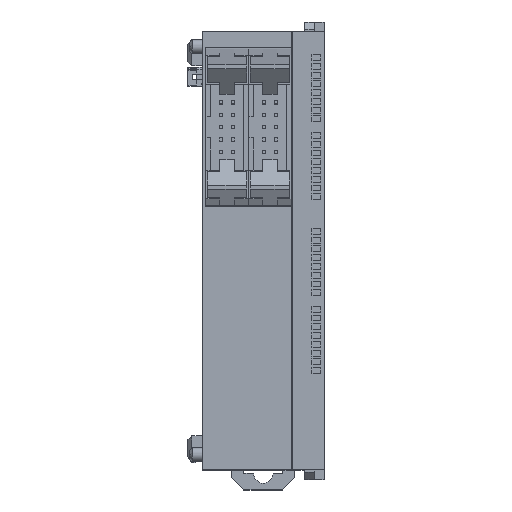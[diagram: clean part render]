
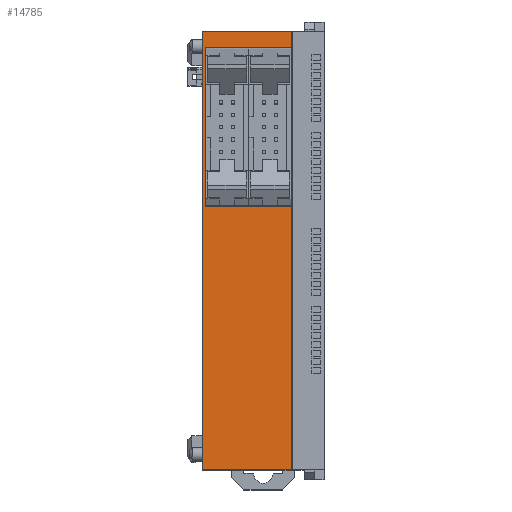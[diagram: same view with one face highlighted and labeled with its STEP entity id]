
A CAD part, top view. The second image highlights one B-rep face of the part: STEP entity #14785.
In plain terms, the highlighted planar face has unit normal (0, 0, 1).
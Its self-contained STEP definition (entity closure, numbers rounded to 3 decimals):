
#187 = DIRECTION ( 'NONE',  ( 0., -1., 0. ) ) ;
#188 = VECTOR ( 'NONE', #187, 1000. ) ;
#189 = CARTESIAN_POINT ( 'NONE',  ( -12.5, 45., 60. ) ) ;
#190 = LINE ( 'NONE', #189, #188 ) ;
#995 = CARTESIAN_POINT ( 'NONE',  ( 5.8, -45., 60. ) ) ;
#1071 = DIRECTION ( 'NONE',  ( 1., 0., 0. ) ) ;
#1072 = CARTESIAN_POINT ( 'NONE',  ( -12.5, -45., 60. ) ) ;
#1098 = LINE ( 'NONE', #1072, #1114 ) ;
#1114 = VECTOR ( 'NONE', #1071, 1000. ) ;
#1946 = LINE ( 'NONE', #2005, #2004 ) ;
#1967 = CARTESIAN_POINT ( 'NONE',  ( 5.8, 45., 60. ) ) ;
#2003 = DIRECTION ( 'NONE',  ( -1., 0., 0. ) ) ;
#2004 = VECTOR ( 'NONE', #2003, 1000. ) ;
#2005 = CARTESIAN_POINT ( 'NONE',  ( -12.5, 45., 60. ) ) ;
#2842 = CARTESIAN_POINT ( 'NONE',  ( -11.9, 41.7, 60. ) ) ;
#2847 = DIRECTION ( 'NONE',  ( 1., 0., 0. ) ) ;
#2848 = VECTOR ( 'NONE', #2847, 1000. ) ;
#2852 = DIRECTION ( 'NONE',  ( 0., -1., 0. ) ) ;
#2853 = VECTOR ( 'NONE', #2852, 1000. ) ;
#2854 = CARTESIAN_POINT ( 'NONE',  ( 5.8, 45., 60. ) ) ;
#2855 = LINE ( 'NONE', #2854, #2853 ) ;
#2856 = CARTESIAN_POINT ( 'NONE',  ( 5.8, 9., 60. ) ) ;
#2857 = LINE ( 'NONE', #2856, #2848 ) ;
#2896 = FACE_OUTER_BOUND ( 'NONE', #14730, .T. ) ;
#2927 = CARTESIAN_POINT ( 'NONE',  ( 5.8, 41.7, 60. ) ) ;
#2931 = PLANE ( 'NONE',  #2940 ) ;
#2932 = LINE ( 'NONE', #2989, #2987 ) ;
#2936 = CARTESIAN_POINT ( 'NONE',  ( -11.9, 9., 60. ) ) ;
#2940 = AXIS2_PLACEMENT_3D ( 'NONE', #2992, #2991, #2990 ) ;
#2954 = DIRECTION ( 'NONE',  ( 0., -1., 0. ) ) ;
#2955 = VECTOR ( 'NONE', #2954, 1000. ) ;
#2956 = CARTESIAN_POINT ( 'NONE',  ( 5.8, 9., 60. ) ) ;
#2957 = CARTESIAN_POINT ( 'NONE',  ( 5.8, 45., 60. ) ) ;
#2958 = LINE ( 'NONE', #2957, #2955 ) ;
#2979 = DIRECTION ( 'NONE',  ( -1., 0., 0. ) ) ;
#2980 = VECTOR ( 'NONE', #2979, 1000. ) ;
#2981 = CARTESIAN_POINT ( 'NONE',  ( 5.8, 41.7, 60. ) ) ;
#2982 = LINE ( 'NONE', #2981, #2980 ) ;
#2986 = DIRECTION ( 'NONE',  ( 0., -1., 0. ) ) ;
#2987 = VECTOR ( 'NONE', #2986, 1000. ) ;
#2989 = CARTESIAN_POINT ( 'NONE',  ( -11.9, 41.7, 60. ) ) ;
#2990 = DIRECTION ( 'NONE',  ( 1., 0., 0. ) ) ;
#2991 = DIRECTION ( 'NONE',  ( 0., 0., 1. ) ) ;
#2992 = CARTESIAN_POINT ( 'NONE',  ( -12.5, -45., 60. ) ) ;
#5295 = VERTEX_POINT ( 'NONE', #16017 ) ;
#7121 = VERTEX_POINT ( 'NONE', #18955 ) ;
#13083 = EDGE_CURVE ( 'NONE', #5295, #7121, #190, .T. ) ;
#13581 = VERTEX_POINT ( 'NONE', #995 ) ;
#13655 = EDGE_CURVE ( 'NONE', #7121, #13581, #1098, .T. ) ;
#14168 = VERTEX_POINT ( 'NONE', #1967 ) ;
#14181 = EDGE_CURVE ( 'NONE', #14168, #5295, #1946, .T. ) ;
#14707 = ORIENTED_EDGE ( 'NONE', *, *, #14790, .F. ) ;
#14708 = EDGE_CURVE ( 'NONE', #14168, #14791, #2855, .T. ) ;
#14713 = ORIENTED_EDGE ( 'NONE', *, *, #13655, .T. ) ;
#14714 = ORIENTED_EDGE ( 'NONE', *, *, #14772, .F. ) ;
#14715 = EDGE_CURVE ( 'NONE', #14782, #14783, #2857, .T. ) ;
#14726 = VERTEX_POINT ( 'NONE', #2842 ) ;
#14730 = EDGE_LOOP ( 'NONE', ( #14787, #14786, #14707, #14784, #14789, #14771, #14713, #14714 ) ) ;
#14771 = ORIENTED_EDGE ( 'NONE', *, *, #13083, .T. ) ;
#14772 = EDGE_CURVE ( 'NONE', #14783, #13581, #2958, .T. ) ;
#14782 = VERTEX_POINT ( 'NONE', #2936 ) ;
#14783 = VERTEX_POINT ( 'NONE', #2956 ) ;
#14784 = ORIENTED_EDGE ( 'NONE', *, *, #14708, .F. ) ;
#14785 = ADVANCED_FACE ( 'NONE', ( #2896 ), #2931, .T. ) ;
#14786 = ORIENTED_EDGE ( 'NONE', *, *, #14788, .F. ) ;
#14787 = ORIENTED_EDGE ( 'NONE', *, *, #14715, .F. ) ;
#14788 = EDGE_CURVE ( 'NONE', #14726, #14782, #2932, .T. ) ;
#14789 = ORIENTED_EDGE ( 'NONE', *, *, #14181, .T. ) ;
#14790 = EDGE_CURVE ( 'NONE', #14791, #14726, #2982, .T. ) ;
#14791 = VERTEX_POINT ( 'NONE', #2927 ) ;
#16017 = CARTESIAN_POINT ( 'NONE',  ( -12.5, 45., 60. ) ) ;
#18955 = CARTESIAN_POINT ( 'NONE',  ( -12.5, -45., 60. ) ) ;
